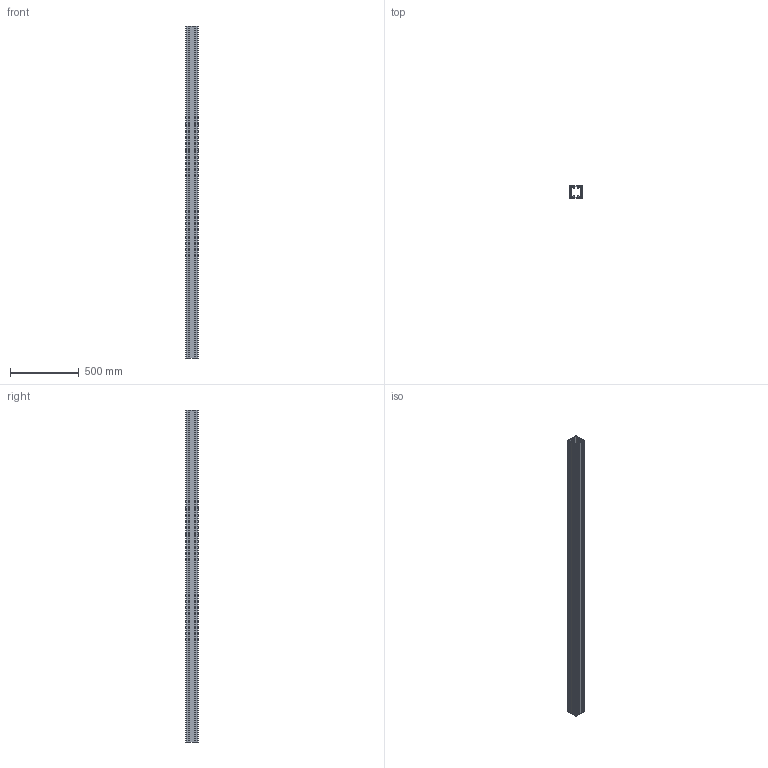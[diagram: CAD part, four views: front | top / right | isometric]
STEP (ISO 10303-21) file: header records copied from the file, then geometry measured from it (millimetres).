
FILE_DESCRIPTION (( 'STEP AP214' ), '1' );
FILE_NAME ('TC88.step', '2017-04-05T08:05:59', ( '' ), ( '' ), 'SwSTEP 2.0', 'SolidWorks 2015', '' );
FILE_SCHEMA (( 'AUTOMOTIVE_DESIGN' ));
Length unit declared in the file: millimetre
Products named in the file (1): TC88
Bounding box: 88 x 88 x 2415.43 mm (x, y, z)
Volume: 2979306.4 mm3; surface area: 2908211.8 mm2
Topology: 1 solids, 1 shells, 478 faces, 1428 edges, 952 vertices
Faces by surface type: cylinder 252, plane 226
Entity records: 16290 total; most frequent: DIRECTION 2890, CARTESIAN_POINT 2859, ORIENTED_EDGE 2856, EDGE_CURVE 1428, AXIS2_PLACEMENT_3D 983, VERTEX_POINT 952, LINE 924, VECTOR 924
